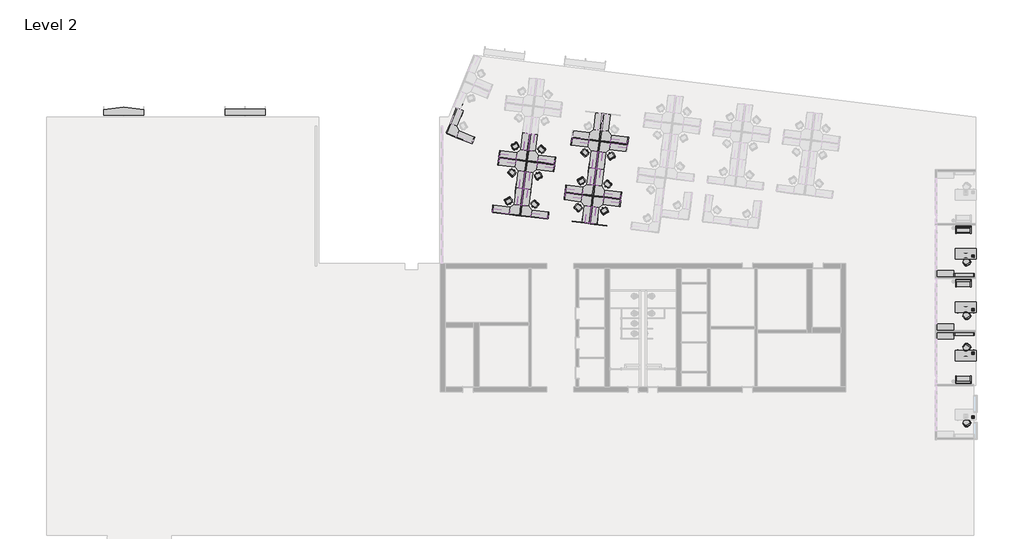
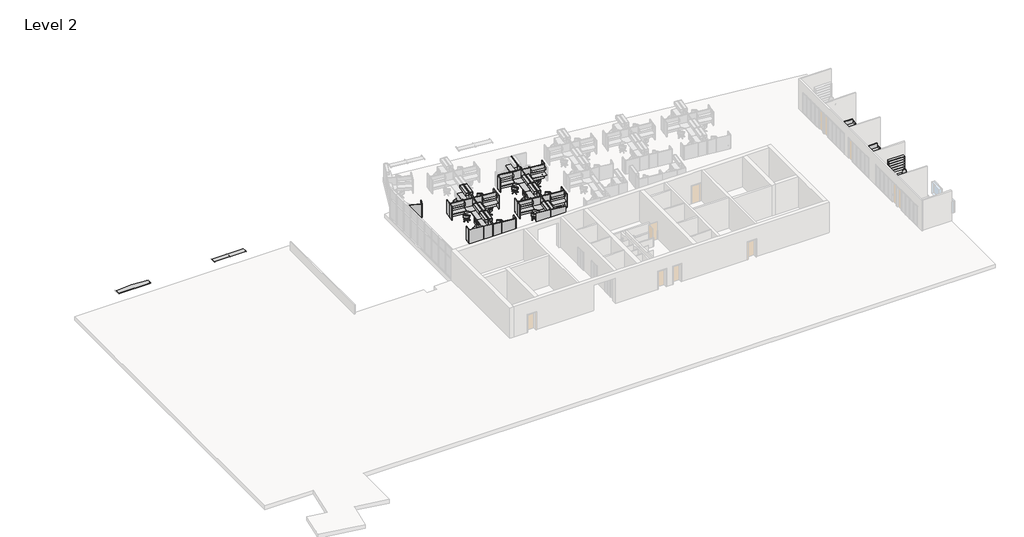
# One storey, part 5 of 7: 94 furniture elements, 6 proxies.
"""IFC4 building model written with IfcOpenShell, lengths in millimetres."""

from ifc_helpers import new_model, si_unit, origin, place, context, project, spatial, transform, mapped, element, save
from components import phone_phone_5230e7aa, phone_phone_b8b7aebd, shading_device_shading_device_a76b5041, shading_device3_shading_device3_e523e190, chair_executive_chair_executive_8d69e98c, chair_executive_chair_executive_a5be4872, chair_task_arms_chair_task_arms_3b363349, chair_task_arms_chair_task_arms_8395c10b, furniture_894c625b, furniture_2f1724fb, furniture_665347ce, furniture_3ceed070, furniture_00cef8f1, furniture_8d825890, furniture_2fc54265, furniture_91cd4dc0, overhead_shelving_module_overhead_shelving_module_3ee17988, overhead_shelving_module_overhead_shelving_module_7dcda1b9, overhead_storage_module_overhead_storage_module_326dc690, overhead_storage_module_overhead_storage_module_bea9f75f, furniture_6f8441ab, furniture_6d145fab, furniture_22419f35, furniture_8ec9ccbf, furniture_0333d240, furniture_4718bb14, furniture_45e3acac, furniture_7b33082a

model = new_model("IFC4")

# Units and contexts
model_context = context("Model", 3, world=origin())
ifc_project = project(units=[si_unit("LENGTHUNIT", "METRE", prefix="MILLI")], contexts=[model_context])

# Site, building, storey
site = spatial("IfcSite", under=ifc_project)
building = spatial("IfcBuilding", under=site)
storey = spatial("IfcBuildingStorey", under=building, Name="Level 2", Elevation=3657.6)

# Proxies
placement = place(None, origin())
phone_phone_shape = phone_phone_5230e7aa(model_context)
element("IfcBuildingElementProxy", 1, Name="Phone : Phone", ObjectType="Phone : Phone", at=placement, inside=storey, context=model_context, shape_type="MappedRepresentation", body=[
    mapped(phone_phone_shape, transform((15049.386755, -11543.7561102, 4419.6), x_axis=(1.0, 0.0, 0.0), y_axis=(0.0, 1.0, 0.0), z_axis=(0.0, 0.0, 1.0))),
])
phone_phone_2_shape = phone_phone_b8b7aebd(model_context)
element("IfcBuildingElementProxy", 2, Name="Phone : Phone", ObjectType="Phone : Phone", at=placement, inside=storey, context=model_context, shape_type="MappedRepresentation", body=[
    mapped(phone_phone_2_shape, transform((15049.386755, -2377.1766865, 4419.6), x_axis=(1.0, 0.0, 0.0), y_axis=(0.0, 1.0, 0.0), z_axis=(0.0, 0.0, 1.0))),
])
element("IfcBuildingElementProxy", 3, Name="Phone : Phone", ObjectType="Phone : Phone", at=placement, inside=storey, context=model_context, shape_type="MappedRepresentation", body=[
    mapped(phone_phone_2_shape, transform((15049.386755, -7211.6809871, 4419.6), x_axis=(1.0, 0.0, 0.0), y_axis=(0.0, 1.0, 0.0), z_axis=(0.0, 0.0, 1.0))),
])
element("IfcBuildingElementProxy", 4, Name="Phone : Phone", ObjectType="Phone : Phone", at=placement, inside=storey, context=model_context, shape_type="MappedRepresentation", body=[
    mapped(phone_phone_2_shape, transform((15049.386755, -16880.6895882, 4419.6), x_axis=(1.0, 0.0, 0.0), y_axis=(0.0, 1.0, 0.0), z_axis=(0.0, 0.0, 1.0))),
])
shading_device_shading_device_shape = shading_device_shading_device_a76b5041(model_context)
element("IfcBuildingElementProxy", 5, Name="Shading Device : Shading Device", ObjectType="Shading Device : Shading Device", at=placement, inside=storey, context=model_context, shape_type="MappedRepresentation", body=[
    mapped(shading_device_shading_device_shape, transform((-48967.6441819, 10081.2896508, 4572.0), x_axis=(-1.0, 0.0, 0.0), y_axis=(0.0, -1.0, 0.0), z_axis=(0.0, 0.0, 1.0))),
])
shading_device3_shading_device3_shape = shading_device3_shading_device3_e523e190(model_context)
element("IfcBuildingElementProxy", 6, Name="Shading Device3 : Shading Device3", ObjectType="Shading Device3 : Shading Device3", at=placement, inside=storey, context=model_context, shape_type="MappedRepresentation", body=[
    mapped(shading_device3_shading_device3_shape, transform((-59892.8191819, 10081.2896508, 4572.0), x_axis=(-1.0, 0.0, 0.0), y_axis=(0.0, -1.0, 0.0), z_axis=(0.0, 0.0, 1.0))),
])

# Furniture
chair_executive_chair_executive_shape = chair_executive_chair_executive_8d69e98c(model_context)
element("IfcFurniture", 7, ObjectType="Chair-Executive : Chair-Executive", at=placement, inside=storey, context=model_context, shape_type="MappedRepresentation", body=[
    mapped(chair_executive_chair_executive_shape, transform((14331.1988374, -10895.4183478, 3657.6), x_axis=(-0.8386705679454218, 0.5446390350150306, 0.0), y_axis=(-0.5446390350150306, -0.8386705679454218, 0.0), z_axis=(0.0, 0.0, 1.0))),
])
chair_executive_chair_executive_2_shape = chair_executive_chair_executive_a5be4872(model_context)
element("IfcFurniture", 8, ObjectType="Chair-Executive : Chair-Executive", at=placement, inside=storey, context=model_context, shape_type="MappedRepresentation", body=[
    mapped(chair_executive_chair_executive_2_shape, transform((14331.1988374, -3025.5144489, 3657.6), x_axis=(-0.8386705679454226, -0.5446390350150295, 0.0), y_axis=(0.5446390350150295, -0.8386705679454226, 0.0), z_axis=(0.0, 0.0, 1.0))),
])
element("IfcFurniture", 9, ObjectType="Chair-Executive : Chair-Executive", at=placement, inside=storey, context=model_context, shape_type="MappedRepresentation", body=[
    mapped(chair_executive_chair_executive_2_shape, transform((14331.1988374, -7860.0187495, 3657.6), x_axis=(-0.8386705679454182, -0.5446390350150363, 0.0), y_axis=(0.5446390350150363, -0.8386705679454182, 0.0), z_axis=(0.0, 0.0, 1.0))),
])
element("IfcFurniture", 10, ObjectType="Chair-Executive : Chair-Executive", at=placement, inside=storey, context=model_context, shape_type="MappedRepresentation", body=[
    mapped(chair_executive_chair_executive_2_shape, transform((14331.1988374, -17529.0273506, 3657.6), x_axis=(-0.8386705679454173, -0.5446390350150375, 0.0), y_axis=(0.5446390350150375, -0.8386705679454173, 0.0), z_axis=(0.0, 0.0, 1.0))),
])
chair_task_arms_chair_task_arms_shape = chair_task_arms_chair_task_arms_3b363349(model_context)
element("IfcFurniture", 11, ObjectType="Chair-Task Arms : Chair-Task Arms", at=placement, inside=storey, context=model_context, shape_type="MappedRepresentation", body=[
    mapped(chair_task_arms_chair_task_arms_shape, transform((-20294.5435692, 6809.0079878, 3657.6), x_axis=(0.719339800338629, -0.6946583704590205, 0.0), y_axis=(0.6946583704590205, 0.719339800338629, 0.0), z_axis=(0.0, 0.0, 1.0))),
])
element("IfcFurniture", 12, ObjectType="Chair-Task Arms : Chair-Task Arms", at=placement, inside=storey, context=model_context, shape_type="MappedRepresentation", body=[
    mapped(chair_task_arms_chair_task_arms_shape, transform((-23959.1336884, 6961.7514569, 3657.6), x_axis=(-0.7193398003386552, 0.6946583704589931, 0.0), y_axis=(-0.6946583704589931, -0.7193398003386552, 0.0), z_axis=(0.0, 0.0, 1.0))),
])
element("IfcFurniture", 13, ObjectType="Chair-Task Arms : Chair-Task Arms", at=placement, inside=storey, context=model_context, shape_type="MappedRepresentation", body=[
    mapped(chair_task_arms_chair_task_arms_shape, transform((-17997.8622143, 3824.2688972, 3657.6), x_axis=(-0.7193398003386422, 0.6946583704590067, 0.0), y_axis=(-0.6946583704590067, -0.7193398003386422, 0.0), z_axis=(0.0, 0.0, 1.0))),
])
element("IfcFurniture", 14, ObjectType="Chair-Task Arms : Chair-Task Arms", at=placement, inside=storey, context=model_context, shape_type="MappedRepresentation", body=[
    mapped(chair_task_arms_chair_task_arms_shape, transform((-24565.8480276, 2020.4596955, 3657.6), x_axis=(-0.7193398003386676, 0.6946583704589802, 0.0), y_axis=(-0.6946583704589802, -0.7193398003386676, 0.0), z_axis=(0.0, 0.0, 1.0))),
])
element("IfcFurniture", 15, ObjectType="Chair-Task Arms : Chair-Task Arms", at=placement, inside=storey, context=model_context, shape_type="MappedRepresentation", body=[
    mapped(chair_task_arms_chair_task_arms_shape, transform((-20901.2579084, 1867.7162265, 3657.6), x_axis=(0.7193398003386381, -0.694658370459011, 0.0), y_axis=(0.694658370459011, 0.7193398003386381, 0.0), z_axis=(0.0, 0.0, 1.0))),
])
element("IfcFurniture", 16, ObjectType="Chair-Task Arms : Chair-Task Arms", at=placement, inside=storey, context=model_context, shape_type="MappedRepresentation", body=[
    mapped(chair_task_arms_chair_task_arms_shape, transform((-26862.5293825, 5005.1987861, 3657.6), x_axis=(0.7193398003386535, -0.6946583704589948, 0.0), y_axis=(0.6946583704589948, 0.7193398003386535, 0.0), z_axis=(0.0, 0.0, 1.0))),
])
chair_task_arms_chair_task_arms_2_shape = chair_task_arms_chair_task_arms_8395c10b(model_context)
element("IfcFurniture", 17, ObjectType="Chair-Task Arms : Chair-Task Arms", at=placement, inside=storey, context=model_context, shape_type="MappedRepresentation", body=[
    mapped(chair_task_arms_chair_task_arms_2_shape, transform((-17670.9359707, 6486.8694808, 3657.6), x_axis=(-0.866025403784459, -0.49999999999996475, 0.0), y_axis=(0.49999999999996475, -0.866025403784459, 0.0), z_axis=(0.0, 0.0, 1.0))),
])
element("IfcFurniture", 18, ObjectType="Chair-Task Arms : Chair-Task Arms", at=placement, inside=storey, context=model_context, shape_type="MappedRepresentation", body=[
    mapped(chair_task_arms_chair_task_arms_2_shape, transform((-20621.4698127, 4146.4074042, 3657.6), x_axis=(0.8660254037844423, 0.4999999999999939, 0.0), y_axis=(-0.4999999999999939, 0.8660254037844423, 0.0), z_axis=(0.0, 0.0, 1.0))),
])
element("IfcFurniture", 19, ObjectType="Chair-Task Arms : Chair-Task Arms", at=placement, inside=storey, context=model_context, shape_type="MappedRepresentation", body=[
    mapped(chair_task_arms_chair_task_arms_2_shape, transform((-24238.921784, 4683.0602792, 3657.6), x_axis=(-0.8660254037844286, -0.5000000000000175, 0.0), y_axis=(0.5000000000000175, -0.8660254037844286, 0.0), z_axis=(0.0, 0.0, 1.0))),
])
element("IfcFurniture", 20, ObjectType="Chair-Task Arms : Chair-Task Arms", at=placement, inside=storey, context=model_context, shape_type="MappedRepresentation", body=[
    mapped(chair_task_arms_chair_task_arms_2_shape, transform((-18277.6503099, 1545.5777195, 3657.6), x_axis=(-0.8660254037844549, -0.4999999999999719, 0.0), y_axis=(0.4999999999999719, -0.8660254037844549, 0.0), z_axis=(0.0, 0.0, 1.0))),
])
element("IfcFurniture", 21, ObjectType="Chair-Task Arms : Chair-Task Arms", at=placement, inside=storey, context=model_context, shape_type="MappedRepresentation", body=[
    mapped(chair_task_arms_chair_task_arms_2_shape, transform((-26582.7412868, 7283.8899638, 3657.6), x_axis=(0.8660254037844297, 0.5000000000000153, 0.0), y_axis=(-0.5000000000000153, 0.8660254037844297, 0.0), z_axis=(0.0, 0.0, 1.0))),
])
element("IfcFurniture", 22, ObjectType="Chair-Task Arms : Chair-Task Arms", at=placement, inside=storey, context=model_context, shape_type="MappedRepresentation", body=[
    mapped(chair_task_arms_chair_task_arms_2_shape, transform((-27189.455626, 2342.5982025, 3657.6), x_axis=(0.8660254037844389, 0.49999999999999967, 0.0), y_axis=(-0.49999999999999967, 0.8660254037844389, 0.0), z_axis=(0.0, 0.0, 1.0))),
])
furniture_shape = furniture_894c625b(model_context)
element("IfcFurniture", 23, ObjectType="Credenza : 60\" x 24\"", at=placement, inside=storey, context=model_context, shape_type="MappedRepresentation", body=[
    mapped(furniture_shape, transform((12221.5111465, -4173.1445759, 3657.6), x_axis=(1.0, 0.0, 0.0), y_axis=(0.0, 1.0, 0.0), z_axis=(0.0, 0.0, 1.0))),
])
element("IfcFurniture", 24, ObjectType="Credenza : 60\" x 24\"", at=placement, inside=storey, context=model_context, shape_type="MappedRepresentation", body=[
    mapped(furniture_shape, transform((12221.5111465, -9007.6488765, 3657.6), x_axis=(1.0, 0.0, 0.0), y_axis=(0.0, 1.0, 0.0), z_axis=(0.0, 0.0, 1.0))),
])
furniture_2_shape = furniture_2f1724fb(model_context)
element("IfcFurniture", 25, ObjectType="Credenza : 60\" x 24\"", at=placement, inside=storey, context=model_context, shape_type="MappedRepresentation", body=[
    mapped(furniture_2_shape, transform((12221.5111465, -9747.7882208, 3657.6), x_axis=(1.0, 0.0, 0.0), y_axis=(0.0, 1.0, 0.0), z_axis=(0.0, 0.0, 1.0))),
])
furniture_3_shape = furniture_665347ce(model_context)
element("IfcFurniture", 26, ObjectType="Cube Panel : 24\" x 66\"", at=placement, inside=storey, context=model_context, shape_type="MappedRepresentation", body=[
    mapped(furniture_3_shape, transform((-21382.0390135, 7740.7875626, 3657.6), x_axis=(-0.12186934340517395, -0.9925461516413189, 0.0), y_axis=(0.9925461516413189, -0.12186934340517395, 0.0), z_axis=(0.0, 0.0, 1.0))),
])
element("IfcFurniture", 27, ObjectType="Cube Panel : 24\" x 66\"", at=placement, inside=storey, context=model_context, shape_type="MappedRepresentation", body=[
    mapped(furniture_3_shape, transform((-16303.6524307, 7833.7810838, 3657.6), x_axis=(0.12186934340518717, 0.9925461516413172, 0.0), y_axis=(-0.9925461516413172, 0.12186934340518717, 0.0), z_axis=(0.0, 0.0, 1.0))),
])
element("IfcFurniture", 28, ObjectType="Cube Panel : 24\" x 66\"", at=placement, inside=storey, context=model_context, shape_type="MappedRepresentation", body=[
    mapped(furniture_3_shape, transform((-22871.638244, 6029.9718821, 3657.6), x_axis=(0.12186934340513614, 0.9925461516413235, 0.0), y_axis=(-0.9925461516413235, 0.12186934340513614, 0.0), z_axis=(0.0, 0.0, 1.0))),
])
element("IfcFurniture", 29, ObjectType="Cube Panel : 24\" x 66\"", at=placement, inside=storey, context=model_context, shape_type="MappedRepresentation", body=[
    mapped(furniture_3_shape, transform((-16910.3667699, 2892.4893225, 3657.6), x_axis=(0.12186934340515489, 0.9925461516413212, 0.0), y_axis=(-0.9925461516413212, 0.12186934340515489, 0.0), z_axis=(0.0, 0.0, 1.0))),
])
element("IfcFurniture", 30, ObjectType="Cube Panel : 24\" x 66\"", at=placement, inside=storey, context=model_context, shape_type="MappedRepresentation", body=[
    mapped(furniture_3_shape, transform((-23478.3525832, 1088.6801208, 3657.6), x_axis=(0.12186934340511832, 0.9925461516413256, 0.0), y_axis=(-0.9925461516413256, 0.12186934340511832, 0.0), z_axis=(0.0, 0.0, 1.0))),
])
element("IfcFurniture", 31, ObjectType="Cube Panel : 24\" x 66\"", at=placement, inside=storey, context=model_context, shape_type="MappedRepresentation", body=[
    mapped(furniture_3_shape, transform((-21988.7533528, 2799.4958013, 3657.6), x_axis=(-0.12186934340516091, -0.9925461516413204, 0.0), y_axis=(0.9925461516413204, -0.12186934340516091, 0.0), z_axis=(0.0, 0.0, 1.0))),
])
element("IfcFurniture", 32, ObjectType="Cube Panel : 24\" x 66\"", at=placement, inside=storey, context=model_context, shape_type="MappedRepresentation", body=[
    mapped(furniture_3_shape, transform((-27950.0248269, 5936.9783609, 3657.6), x_axis=(-0.12186934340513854, -0.9925461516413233, 0.0), y_axis=(0.9925461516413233, -0.12186934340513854, 0.0), z_axis=(0.0, 0.0, 1.0))),
])
element("IfcFurniture", 33, ObjectType="Cube Panel : 24\" x 66\"", at=placement, inside=storey, context=model_context, shape_type="MappedRepresentation", body=[
    mapped(furniture_3_shape, transform((-30219.5912683, 7857.7185256, 3657.6), x_axis=(0.3785502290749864, 0.9255807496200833, 0.0), y_axis=(-0.9255807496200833, 0.3785502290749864, 0.0), z_axis=(0.0, 0.0, 1.0))),
])
furniture_4_shape = furniture_3ceed070(model_context)
element("IfcFurniture", 34, ObjectType="Cube Panel : 24\" x 66\"", at=placement, inside=storey, context=model_context, shape_type="MappedRepresentation", body=[
    mapped(furniture_4_shape, transform((-21902.0798757, 3505.3946243, 3657.6), x_axis=(0.12186934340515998, 0.9925461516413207, 0.0), y_axis=(-0.9925461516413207, 0.12186934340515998, 0.0), z_axis=(0.0, 0.0, 1.0))),
])
element("IfcFurniture", 35, ObjectType="Cube Panel : 24\" x 66\"", at=placement, inside=storey, context=model_context, shape_type="MappedRepresentation", body=[
    mapped(furniture_4_shape, transform((-22958.311721, 5324.073059, 3657.6), x_axis=(-0.12186934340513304, -0.992546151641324, 0.0), y_axis=(0.992546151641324, -0.12186934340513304, 0.0), z_axis=(0.0, 0.0, 1.0))),
])
element("IfcFurniture", 36, ObjectType="Cube Panel : 24\" x 66\"", at=placement, inside=storey, context=model_context, shape_type="MappedRepresentation", body=[
    mapped(furniture_4_shape, transform((-16997.0402469, 2186.5904994, 3657.6), x_axis=(-0.12186934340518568, -0.9925461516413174, 0.0), y_axis=(0.9925461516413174, -0.12186934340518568, 0.0), z_axis=(0.0, 0.0, 1.0))),
])
element("IfcFurniture", 37, ObjectType="Cube Panel : 24\" x 66\"", at=placement, inside=storey, context=model_context, shape_type="MappedRepresentation", body=[
    mapped(furniture_4_shape, transform((-27863.3513498, 6642.8771839, 3657.6), x_axis=(0.12186934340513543, 0.9925461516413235, 0.0), y_axis=(-0.9925461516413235, 0.12186934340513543, 0.0), z_axis=(0.0, 0.0, 1.0))),
])
element("IfcFurniture", 38, ObjectType="Cube Panel : 24\" x 66\"", at=placement, inside=storey, context=model_context, shape_type="MappedRepresentation", body=[
    mapped(furniture_4_shape, transform((-28470.065689, 1701.5854226, 3657.6), x_axis=(0.12186934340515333, 0.9925461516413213, 0.0), y_axis=(-0.9925461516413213, 0.12186934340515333, 0.0), z_axis=(0.0, 0.0, 1.0))),
])
furniture_5_shape = furniture_00cef8f1(model_context)
element("IfcFurniture", 39, ObjectType="Cube Panel : 60\" x 66\"", at=placement, inside=storey, context=model_context, shape_type="MappedRepresentation", body=[
    mapped(furniture_5_shape, transform((-20562.7542243, 449.1914113, 3657.6), x_axis=(-0.9925461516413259, 0.12186934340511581, 0.0), y_axis=(-0.12186934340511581, -0.9925461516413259, 0.0), z_axis=(0.0, 0.0, 1.0))),
])
furniture_6_shape = furniture_8d825890(model_context)
element("IfcFurniture", 40, ObjectType="Cube Panel : 60\" x 66\"", at=placement, inside=storey, context=model_context, shape_type="MappedRepresentation", body=[
    mapped(furniture_6_shape, transform((-18949.2712002, 251.0806066, 3657.6), x_axis=(0.9925461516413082, -0.12186934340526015, 0.0), y_axis=(0.12186934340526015, 0.9925461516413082, 0.0), z_axis=(0.0, 0.0, 1.0))),
])
furniture_7_shape = furniture_2fc54265(model_context)
element("IfcFurniture", 41, ObjectType="Desk : 72\" x 36\"", at=placement, inside=storey, context=model_context, shape_type="MappedRepresentation", body=[
    mapped(furniture_7_shape, transform((13214.5054088, -12007.5598812, 3657.6), x_axis=(1.0, 0.0, 0.0), y_axis=(0.0, 1.0, 0.0), z_axis=(0.0, 0.0, 1.0))),
])
furniture_8_shape = furniture_91cd4dc0(model_context)
element("IfcFurniture", 42, ObjectType="Desk : 72\" x 36\"", at=placement, inside=storey, context=model_context, shape_type="MappedRepresentation", body=[
    mapped(furniture_8_shape, transform((13214.5054088, -1913.3729155, 3657.6), x_axis=(1.0, 0.0, 0.0), y_axis=(0.0, 1.0, 0.0), z_axis=(0.0, 0.0, 1.0))),
])
element("IfcFurniture", 43, ObjectType="Desk : 72\" x 36\"", at=placement, inside=storey, context=model_context, shape_type="MappedRepresentation", body=[
    mapped(furniture_8_shape, transform((13214.5054088, -6747.877216, 3657.6), x_axis=(1.0, 0.0, 0.0), y_axis=(0.0, 1.0, 0.0), z_axis=(0.0, 0.0, 1.0))),
])
overhead_shelving_module_overhead_shelving_module_shape = overhead_shelving_module_overhead_shelving_module_3ee17988(model_context)
element("IfcFurniture", 44, ObjectType="Overhead Shelving Module : Overhead Shelving Module", at=placement, inside=storey, context=model_context, shape_type="MappedRepresentation", body=[
    mapped(overhead_shelving_module_overhead_shelving_module_shape, transform((-20435.5371217, 7693.7235514, 3505.2), x_axis=(0.9925461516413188, -0.12186934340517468, 0.0), y_axis=(0.12186934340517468, 0.9925461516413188, 0.0), z_axis=(0.0, 0.0, 1.0))),
])
element("IfcFurniture", 45, ObjectType="Overhead Shelving Module : Overhead Shelving Module", at=placement, inside=storey, context=model_context, shape_type="MappedRepresentation", body=[
    mapped(overhead_shelving_module_overhead_shelving_module_shape, transform((-17250.1543225, 7880.8450949, 3505.2), x_axis=(-0.9925461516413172, 0.12186934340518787, 0.0), y_axis=(-0.12186934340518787, -0.9925461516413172, 0.0), z_axis=(0.0, 0.0, 1.0))),
])
element("IfcFurniture", 46, ObjectType="Overhead Shelving Module : Overhead Shelving Module", at=placement, inside=storey, context=model_context, shape_type="MappedRepresentation", body=[
    mapped(overhead_shelving_module_overhead_shelving_module_shape, transform((-23818.1401358, 6077.0358932, 3505.2), x_axis=(-0.9925461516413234, 0.12186934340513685, 0.0), y_axis=(-0.12186934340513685, -0.9925461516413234, 0.0), z_axis=(0.0, 0.0, 1.0))),
])
element("IfcFurniture", 47, ObjectType="Overhead Shelving Module : Overhead Shelving Module", at=placement, inside=storey, context=model_context, shape_type="MappedRepresentation", body=[
    mapped(overhead_shelving_module_overhead_shelving_module_shape, transform((-17856.8686617, 2939.5533336, 3505.2), x_axis=(-0.9925461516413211, 0.12186934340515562, 0.0), y_axis=(-0.12186934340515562, -0.9925461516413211, 0.0), z_axis=(0.0, 0.0, 1.0))),
])
element("IfcFurniture", 48, ObjectType="Overhead Shelving Module : Overhead Shelving Module", at=placement, inside=storey, context=model_context, shape_type="MappedRepresentation", body=[
    mapped(overhead_shelving_module_overhead_shelving_module_shape, transform((-24424.8544751, 1135.7441319, 3505.2), x_axis=(-0.9925461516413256, 0.12186934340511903, 0.0), y_axis=(-0.12186934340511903, -0.9925461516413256, 0.0), z_axis=(0.0, 0.0, 1.0))),
])
element("IfcFurniture", 49, ObjectType="Overhead Shelving Module : Overhead Shelving Module", at=placement, inside=storey, context=model_context, shape_type="MappedRepresentation", body=[
    mapped(overhead_shelving_module_overhead_shelving_module_shape, transform((-21042.2514609, 2752.4317901, 3505.2), x_axis=(0.9925461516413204, -0.12186934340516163, 0.0), y_axis=(0.12186934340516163, 0.9925461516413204, 0.0), z_axis=(0.0, 0.0, 1.0))),
])
element("IfcFurniture", 50, ObjectType="Overhead Shelving Module : Overhead Shelving Module", at=placement, inside=storey, context=model_context, shape_type="MappedRepresentation", body=[
    mapped(overhead_shelving_module_overhead_shelving_module_shape, transform((-27003.522935, 5889.9143497, 3505.2), x_axis=(0.9925461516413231, -0.12186934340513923, 0.0), y_axis=(0.12186934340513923, 0.9925461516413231, 0.0), z_axis=(0.0, 0.0, 1.0))),
])
overhead_shelving_module_overhead_shelving_module_2_shape = overhead_shelving_module_overhead_shelving_module_7dcda1b9(model_context)
element("IfcFurniture", 51, ObjectType="Overhead Shelving Module : Overhead Shelving Module", at=placement, inside=storey, context=model_context, shape_type="MappedRepresentation", body=[
    mapped(overhead_shelving_module_overhead_shelving_module_2_shape, transform((-17320.0984631, 7311.1957837, 3505.2), x_axis=(-0.9925461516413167, 0.12186934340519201, 0.0), y_axis=(-0.12186934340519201, -0.9925461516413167, 0.0), z_axis=(0.0, 0.0, 1.0))),
])
element("IfcFurniture", 52, ObjectType="Overhead Shelving Module : Overhead Shelving Module", at=placement, inside=storey, context=model_context, shape_type="MappedRepresentation", body=[
    mapped(overhead_shelving_module_overhead_shelving_module_2_shape, transform((-20972.3073204, 3322.0811013, 3505.2), x_axis=(0.9925461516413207, -0.12186934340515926, 0.0), y_axis=(0.12186934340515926, 0.9925461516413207, 0.0), z_axis=(0.0, 0.0, 1.0))),
])
element("IfcFurniture", 53, ObjectType="Overhead Shelving Module : Overhead Shelving Module", at=placement, inside=storey, context=model_context, shape_type="MappedRepresentation", body=[
    mapped(overhead_shelving_module_overhead_shelving_module_2_shape, transform((-23888.0842764, 5507.386582, 3505.2), x_axis=(-0.992546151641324, 0.12186934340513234, 0.0), y_axis=(-0.12186934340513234, -0.992546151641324, 0.0), z_axis=(0.0, 0.0, 1.0))),
])
element("IfcFurniture", 54, ObjectType="Overhead Shelving Module : Overhead Shelving Module", at=placement, inside=storey, context=model_context, shape_type="MappedRepresentation", body=[
    mapped(overhead_shelving_module_overhead_shelving_module_2_shape, transform((-17926.8128023, 2369.9040224, 3505.2), x_axis=(-0.9925461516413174, 0.12186934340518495, 0.0), y_axis=(-0.12186934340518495, -0.9925461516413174, 0.0), z_axis=(0.0, 0.0, 1.0))),
])
element("IfcFurniture", 55, ObjectType="Overhead Shelving Module : Overhead Shelving Module", at=placement, inside=storey, context=model_context, shape_type="MappedRepresentation", body=[
    mapped(overhead_shelving_module_overhead_shelving_module_2_shape, transform((-26933.5787945, 6459.563661, 3505.2), x_axis=(0.9925461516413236, -0.12186934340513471, 0.0), y_axis=(0.12186934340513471, 0.9925461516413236, 0.0), z_axis=(0.0, 0.0, 1.0))),
])
element("IfcFurniture", 56, ObjectType="Overhead Shelving Module : Overhead Shelving Module", at=placement, inside=storey, context=model_context, shape_type="MappedRepresentation", body=[
    mapped(overhead_shelving_module_overhead_shelving_module_2_shape, transform((-27540.2931337, 1518.2718996, 3505.2), x_axis=(0.9925461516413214, -0.12186934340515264, 0.0), y_axis=(0.12186934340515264, 0.9925461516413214, 0.0), z_axis=(0.0, 0.0, 1.0))),
])
overhead_storage_module_overhead_storage_module_shape = overhead_storage_module_overhead_storage_module_326dc690(model_context)
element("IfcFurniture", 57, ObjectType="Overhead Storage Module : Overhead Storage Module", at=placement, inside=storey, context=model_context, shape_type="MappedRepresentation", body=[
    mapped(overhead_storage_module_overhead_storage_module_shape, transform((-19357.3919537, 5951.3242965, 3657.6), x_axis=(-0.12186934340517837, -0.9925461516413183, 0.0), y_axis=(0.9925461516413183, -0.12186934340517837, 0.0), z_axis=(0.0, 0.0, 1.0))),
])
element("IfcFurniture", 58, ObjectType="Overhead Storage Module : Overhead Storage Module", at=placement, inside=storey, context=model_context, shape_type="MappedRepresentation", body=[
    mapped(overhead_storage_module_overhead_storage_module_shape, transform((-24896.2853038, 7819.4351481, 3657.6), x_axis=(0.12186934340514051, 0.992546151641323, 0.0), y_axis=(-0.992546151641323, 0.12186934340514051, 0.0), z_axis=(0.0, 0.0, 1.0))),
])
element("IfcFurniture", 59, ObjectType="Overhead Storage Module : Overhead Storage Module", at=placement, inside=storey, context=model_context, shape_type="MappedRepresentation", body=[
    mapped(overhead_storage_module_overhead_storage_module_shape, transform((-18935.0138297, 4681.9525885, 3657.6), x_axis=(0.12186934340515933, 0.9925461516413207, 0.0), y_axis=(-0.9925461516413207, 0.12186934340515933, 0.0), z_axis=(0.0, 0.0, 1.0))),
])
element("IfcFurniture", 60, ObjectType="Overhead Storage Module : Overhead Storage Module", at=placement, inside=storey, context=model_context, shape_type="MappedRepresentation", body=[
    mapped(overhead_storage_module_overhead_storage_module_shape, transform((-25502.999643, 2878.1433868, 3657.6), x_axis=(0.12186934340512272, 0.9925461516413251, 0.0), y_axis=(-0.9925461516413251, 0.12186934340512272, 0.0), z_axis=(0.0, 0.0, 1.0))),
])
element("IfcFurniture", 61, ObjectType="Overhead Storage Module : Overhead Storage Module", at=placement, inside=storey, context=model_context, shape_type="MappedRepresentation", body=[
    mapped(overhead_storage_module_overhead_storage_module_shape, transform((-19964.1062929, 1010.0325352, 3657.6), x_axis=(-0.12186934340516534, -0.99254615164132, 0.0), y_axis=(0.99254615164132, -0.12186934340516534, 0.0), z_axis=(0.0, 0.0, 1.0))),
])
element("IfcFurniture", 62, ObjectType="Overhead Storage Module : Overhead Storage Module", at=placement, inside=storey, context=model_context, shape_type="MappedRepresentation", body=[
    mapped(overhead_storage_module_overhead_storage_module_shape, transform((-25925.377767, 4147.5150948, 3657.6), x_axis=(-0.12186934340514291, -0.9925461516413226, 0.0), y_axis=(0.9925461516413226, -0.12186934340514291, 0.0), z_axis=(0.0, 0.0, 1.0))),
])
overhead_storage_module_overhead_storage_module_2_shape = overhead_storage_module_overhead_storage_module_bea9f75f(model_context)
element("IfcFurniture", 63, ObjectType="Overhead Storage Module : Overhead Storage Module", at=placement, inside=storey, context=model_context, shape_type="MappedRepresentation", body=[
    mapped(overhead_storage_module_overhead_storage_module_2_shape, transform((-18787.7426425, 5881.380156, 3657.6), x_axis=(-0.1218693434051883, -0.9925461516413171, 0.0), y_axis=(0.9925461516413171, -0.1218693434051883, 0.0), z_axis=(0.0, 0.0, 1.0))),
])
element("IfcFurniture", 64, ObjectType="Overhead Storage Module : Overhead Storage Module", at=placement, inside=storey, context=model_context, shape_type="MappedRepresentation", body=[
    mapped(overhead_storage_module_overhead_storage_module_2_shape, transform((-19504.6631409, 4751.896729, 3657.6), x_axis=(0.12186934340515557, 0.9925461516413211, 0.0), y_axis=(-0.9925461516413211, 0.12186934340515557, 0.0), z_axis=(0.0, 0.0, 1.0))),
])
element("IfcFurniture", 65, ObjectType="Overhead Storage Module : Overhead Storage Module", at=placement, inside=storey, context=model_context, shape_type="MappedRepresentation", body=[
    mapped(overhead_storage_module_overhead_storage_module_2_shape, transform((-25355.7284558, 4077.5709543, 3657.6), x_axis=(-0.12186934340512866, -0.9925461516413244, 0.0), y_axis=(0.9925461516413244, -0.12186934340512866, 0.0), z_axis=(0.0, 0.0, 1.0))),
])
element("IfcFurniture", 66, ObjectType="Overhead Storage Module : Overhead Storage Module", at=placement, inside=storey, context=model_context, shape_type="MappedRepresentation", body=[
    mapped(overhead_storage_module_overhead_storage_module_2_shape, transform((-19394.4569817, 940.0883947, 3657.6), x_axis=(-0.12186934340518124, -0.992546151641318, 0.0), y_axis=(0.992546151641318, -0.12186934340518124, 0.0), z_axis=(0.0, 0.0, 1.0))),
])
element("IfcFurniture", 67, ObjectType="Overhead Storage Module : Overhead Storage Module", at=placement, inside=storey, context=model_context, shape_type="MappedRepresentation", body=[
    mapped(overhead_storage_module_overhead_storage_module_2_shape, transform((-25465.934615, 7889.3792887, 3657.6), x_axis=(0.12186934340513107, 0.9925461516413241, 0.0), y_axis=(-0.9925461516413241, 0.12186934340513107, 0.0), z_axis=(0.0, 0.0, 1.0))),
])
element("IfcFurniture", 68, ObjectType="Overhead Storage Module : Overhead Storage Module", at=placement, inside=storey, context=model_context, shape_type="MappedRepresentation", body=[
    mapped(overhead_storage_module_overhead_storage_module_2_shape, transform((-26072.6489542, 2948.0875274, 3657.6), x_axis=(0.12186934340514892, 0.9925461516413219, 0.0), y_axis=(-0.9925461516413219, 0.12186934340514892, 0.0), z_axis=(0.0, 0.0, 1.0))),
])
furniture_9_shape = furniture_6f8441ab(model_context)
element("IfcFurniture", 69, ObjectType="Shelving : 96\" x 12\" x 84\"", at=placement, inside=storey, context=model_context, shape_type="MappedRepresentation", body=[
    mapped(furniture_9_shape, transform((13982.8554088, -9295.1685486, 3657.6), x_axis=(1.0, 0.0, 0.0), y_axis=(0.0, 1.0, 0.0), z_axis=(0.0, 0.0, 1.0))),
])
furniture_10_shape = furniture_6d145fab(model_context)
element("IfcFurniture", 70, ObjectType="Shelving : 96\" x 12\" x 84\"", at=placement, inside=storey, context=model_context, shape_type="MappedRepresentation", body=[
    mapped(furniture_10_shape, transform((13982.8554088, -4625.7642481, 3657.6), x_axis=(1.0, 0.0, 0.0), y_axis=(0.0, 1.0, 0.0), z_axis=(0.0, 0.0, 1.0))),
])
furniture_11_shape = furniture_22419f35(model_context)
element("IfcFurniture", 71, ObjectType="Sofa : 54\"", at=placement, inside=storey, context=model_context, shape_type="MappedRepresentation", body=[
    mapped(furniture_11_shape, transform((13848.0435844, -350.5126789, 3657.6), x_axis=(1.0, 0.0, 0.0), y_axis=(0.0, 1.0, 0.0), z_axis=(0.0, 0.0, 1.0))),
])
element("IfcFurniture", 72, ObjectType="Sofa : 54\"", at=placement, inside=storey, context=model_context, shape_type="MappedRepresentation", body=[
    mapped(furniture_11_shape, transform((13848.0435844, -5185.0169794, 3657.6), x_axis=(1.0, 0.0, 0.0), y_axis=(0.0, 1.0, 0.0), z_axis=(0.0, 0.0, 1.0))),
])
furniture_12_shape = furniture_8ec9ccbf(model_context)
element("IfcFurniture", 73, ObjectType="Sofa : 54\"", at=placement, inside=storey, context=model_context, shape_type="MappedRepresentation", body=[
    mapped(furniture_12_shape, transform((13848.0435844, -13570.4201178, 3657.6), x_axis=(1.0, 0.0, 0.0), y_axis=(0.0, 1.0, 0.0), z_axis=(0.0, 0.0, 1.0))),
])
furniture_13_shape = furniture_0333d240(model_context)
element("IfcFurniture", 74, ObjectType="Storage Pedestal : 20\" x 30\" x 36\"", at=placement, inside=storey, context=model_context, shape_type="MappedRepresentation", body=[
    mapped(furniture_13_shape, transform((-18629.0164744, 5353.259729, 3657.6), x_axis=(-0.12186934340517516, -0.9925461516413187, 0.0), y_axis=(0.9925461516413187, -0.12186934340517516, 0.0), z_axis=(0.0, 0.0, 1.0))),
])
element("IfcFurniture", 75, ObjectType="Storage Pedestal : 20\" x 30\" x 36\"", at=placement, inside=storey, context=model_context, shape_type="MappedRepresentation", body=[
    mapped(furniture_13_shape, transform((-19663.3893091, 5280.017156, 3657.6), x_axis=(0.12186934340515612, 0.9925461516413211, 0.0), y_axis=(-0.9925461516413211, 0.12186934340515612, 0.0), z_axis=(0.0, 0.0, 1.0))),
])
element("IfcFurniture", 76, ObjectType="Storage Pedestal : 20\" x 30\" x 36\"", at=placement, inside=storey, context=model_context, shape_type="MappedRepresentation", body=[
    mapped(furniture_13_shape, transform((-26231.3751224, 3476.2079543, 3657.6), x_axis=(0.12186934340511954, 0.9925461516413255, 0.0), y_axis=(-0.9925461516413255, 0.12186934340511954, 0.0), z_axis=(0.0, 0.0, 1.0))),
])
element("IfcFurniture", 77, ObjectType="Storage Pedestal : 20\" x 30\" x 36\"", at=placement, inside=storey, context=model_context, shape_type="MappedRepresentation", body=[
    mapped(furniture_13_shape, transform((-19235.7308136, 411.9679677, 3657.6), x_axis=(-0.12186934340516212, -0.9925461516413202, 0.0), y_axis=(0.9925461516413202, -0.12186934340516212, 0.0), z_axis=(0.0, 0.0, 1.0))),
])
element("IfcFurniture", 78, ObjectType="Storage Pedestal : 20\" x 30\" x 36\"", at=placement, inside=storey, context=model_context, shape_type="MappedRepresentation", body=[
    mapped(furniture_13_shape, transform((-25197.0022877, 3549.4505273, 3657.6), x_axis=(-0.12186934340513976, -0.9925461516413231, 0.0), y_axis=(0.9925461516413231, -0.12186934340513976, 0.0), z_axis=(0.0, 0.0, 1.0))),
])
element("IfcFurniture", 79, ObjectType="Storage Pedestal : 20\" x 30\" x 36\"", at=placement, inside=storey, context=model_context, shape_type="MappedRepresentation", body=[
    mapped(furniture_13_shape, transform((-32247.9999957, 10885.0903713, 3657.6), x_axis=(0.37855022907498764, 0.9255807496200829, 0.0), y_axis=(-0.9255807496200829, 0.37855022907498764, 0.0), z_axis=(0.0, 0.0, 1.0))),
])
furniture_14_shape = furniture_4718bb14(model_context)
element("IfcFurniture", 80, ObjectType="Storage Pedestal : 20\" x 30\" x 36\"", at=placement, inside=storey, context=model_context, shape_type="MappedRepresentation", body=[
    mapped(furniture_14_shape, transform((-19639.1671711, 5477.2906387, 3657.6), x_axis=(-0.12186934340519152, -0.9925461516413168, 0.0), y_axis=(0.9925461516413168, -0.12186934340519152, 0.0), z_axis=(0.0, 0.0, 1.0))),
])
element("IfcFurniture", 81, ObjectType="Storage Pedestal : 20\" x 30\" x 36\"", at=placement, inside=storey, context=model_context, shape_type="MappedRepresentation", body=[
    mapped(furniture_14_shape, transform((-18653.2386123, 5155.9862463, 3657.6), x_axis=(0.12186934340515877, 0.9925461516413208, 0.0), y_axis=(-0.9925461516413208, 0.12186934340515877, 0.0), z_axis=(0.0, 0.0, 1.0))),
])
element("IfcFurniture", 82, ObjectType="Storage Pedestal : 20\" x 30\" x 36\"", at=placement, inside=storey, context=model_context, shape_type="MappedRepresentation", body=[
    mapped(furniture_14_shape, transform((-26207.1529844, 3673.481437, 3657.6), x_axis=(-0.12186934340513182, -0.9925461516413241, 0.0), y_axis=(0.9925461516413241, -0.12186934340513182, 0.0), z_axis=(0.0, 0.0, 1.0))),
])
element("IfcFurniture", 83, ObjectType="Storage Pedestal : 20\" x 30\" x 36\"", at=placement, inside=storey, context=model_context, shape_type="MappedRepresentation", body=[
    mapped(furniture_14_shape, transform((-20245.8815103, 535.9988774, 3657.6), x_axis=(-0.12186934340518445, -0.9925461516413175, 0.0), y_axis=(0.9925461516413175, -0.12186934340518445, 0.0), z_axis=(0.0, 0.0, 1.0))),
])
element("IfcFurniture", 84, ObjectType="Storage Pedestal : 20\" x 30\" x 36\"", at=placement, inside=storey, context=model_context, shape_type="MappedRepresentation", body=[
    mapped(furniture_14_shape, transform((-25221.2244257, 3352.1770446, 3657.6), x_axis=(0.12186934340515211, 0.9925461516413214, 0.0), y_axis=(-0.9925461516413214, 0.12186934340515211, 0.0), z_axis=(0.0, 0.0, 1.0))),
])
element("IfcFurniture", 85, ObjectType="Storage Pedestal : 20\" x 30\" x 36\"", at=placement, inside=storey, context=model_context, shape_type="MappedRepresentation", body=[
    mapped(furniture_14_shape, transform((-32454.8782679, 11184.4362572, 3657.6), x_axis=(-0.3785502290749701, -0.9255807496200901, 0.0), y_axis=(0.9255807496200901, -0.3785502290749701, 0.0), z_axis=(0.0, 0.0, 1.0))),
])
furniture_15_shape = furniture_45e3acac(model_context)
element("IfcFurniture", 86, ObjectType="Work Station Cubicle : 96\" x 96\"", at=placement, inside=storey, context=model_context, shape_type="MappedRepresentation", body=[
    mapped(furniture_15_shape, transform((-18367.5666031, 7596.2063506, 3657.6), x_axis=(-0.12186934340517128, -0.9925461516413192, 0.0), y_axis=(0.9925461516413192, -0.12186934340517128, 0.0), z_axis=(0.0, 0.0, 1.0))),
])
element("IfcFurniture", 87, ObjectType="Work Station Cubicle : 96\" x 96\"", at=placement, inside=storey, context=model_context, shape_type="MappedRepresentation", body=[
    mapped(furniture_15_shape, transform((-19318.1248412, 7978.3622958, 3657.6), x_axis=(0.12186934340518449, 0.9925461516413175, 0.0), y_axis=(-0.9925461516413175, 0.12186934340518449, 0.0), z_axis=(0.0, 0.0, 1.0))),
])
element("IfcFurniture", 88, ObjectType="Work Station Cubicle : 96\" x 96\"", at=placement, inside=storey, context=model_context, shape_type="MappedRepresentation", body=[
    mapped(furniture_15_shape, transform((-25886.1106545, 6174.5530941, 3657.6), x_axis=(0.12186934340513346, 0.9925461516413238, 0.0), y_axis=(-0.9925461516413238, 0.12186934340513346, 0.0), z_axis=(0.0, 0.0, 1.0))),
])
element("IfcFurniture", 89, ObjectType="Work Station Cubicle : 96\" x 96\"", at=placement, inside=storey, context=model_context, shape_type="MappedRepresentation", body=[
    mapped(furniture_15_shape, transform((-19924.8391804, 3037.0705345, 3657.6), x_axis=(0.1218693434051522, 0.9925461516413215, 0.0), y_axis=(-0.9925461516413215, 0.1218693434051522, 0.0), z_axis=(0.0, 0.0, 1.0))),
])
element("IfcFurniture", 90, ObjectType="Work Station Cubicle : 96\" x 96\"", at=placement, inside=storey, context=model_context, shape_type="MappedRepresentation", body=[
    mapped(furniture_15_shape, transform((-26492.8249937, 1233.2613328, 3657.6), x_axis=(0.12186934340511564, 0.992546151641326, 0.0), y_axis=(-0.992546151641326, 0.12186934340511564, 0.0), z_axis=(0.0, 0.0, 1.0))),
])
element("IfcFurniture", 91, ObjectType="Work Station Cubicle : 96\" x 96\"", at=placement, inside=storey, context=model_context, shape_type="MappedRepresentation", body=[
    mapped(furniture_15_shape, transform((-18974.2809423, 2654.9145892, 3657.6), x_axis=(-0.12186934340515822, -0.9925461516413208, 0.0), y_axis=(0.9925461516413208, -0.12186934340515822, 0.0), z_axis=(0.0, 0.0, 1.0))),
])
element("IfcFurniture", 92, ObjectType="Work Station Cubicle : 96\" x 96\"", at=placement, inside=storey, context=model_context, shape_type="MappedRepresentation", body=[
    mapped(furniture_15_shape, transform((-24935.5524164, 5792.3971489, 3657.6), x_axis=(-0.12186934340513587, -0.9925461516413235, 0.0), y_axis=(0.9925461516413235, -0.12186934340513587, 0.0), z_axis=(0.0, 0.0, 1.0))),
])
element("IfcFurniture", 93, ObjectType="Work Station Cubicle : 96\" x 96\"", at=placement, inside=storey, context=model_context, shape_type="MappedRepresentation", body=[
    mapped(furniture_15_shape, transform((-33089.9857643, 8789.803864, 3657.6), x_axis=(0.378550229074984, 0.9255807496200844, 0.0), y_axis=(-0.9255807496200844, 0.378550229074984, 0.0), z_axis=(0.0, 0.0, 1.0))),
])
furniture_16_shape = furniture_7b33082a(model_context)
element("IfcFurniture", 94, ObjectType="Work Station Cubicle : 96\" x 96\"", at=placement, inside=storey, context=model_context, shape_type="MappedRepresentation", body=[
    mapped(furniture_16_shape, transform((-18335.4584788, 7857.706038, 3657.6), x_axis=(0.12186934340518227, 0.9925461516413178, 0.0), y_axis=(-0.9925461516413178, 0.12186934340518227, 0.0), z_axis=(0.0, 0.0, 1.0))),
])
element("IfcFurniture", 95, ObjectType="Work Station Cubicle : 96\" x 96\"", at=placement, inside=storey, context=model_context, shape_type="MappedRepresentation", body=[
    mapped(furniture_16_shape, transform((-19350.2329655, 7716.8626084, 3657.6), x_axis=(-0.12186934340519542, -0.9925461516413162, 0.0), y_axis=(0.9925461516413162, -0.12186934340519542, 0.0), z_axis=(0.0, 0.0, 1.0))),
])
element("IfcFurniture", 96, ObjectType="Work Station Cubicle : 96\" x 96\"", at=placement, inside=storey, context=model_context, shape_type="MappedRepresentation", body=[
    mapped(furniture_16_shape, transform((-18942.172818, 2916.4142767, 3657.6), x_axis=(0.12186934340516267, 0.9925461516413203, 0.0), y_axis=(-0.9925461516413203, 0.12186934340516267, 0.0), z_axis=(0.0, 0.0, 1.0))),
])
element("IfcFurniture", 97, ObjectType="Work Station Cubicle : 96\" x 96\"", at=placement, inside=storey, context=model_context, shape_type="MappedRepresentation", body=[
    mapped(furniture_16_shape, transform((-25918.2187788, 5913.0534067, 3657.6), x_axis=(-0.1218693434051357, -0.9925461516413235, 0.0), y_axis=(0.9925461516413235, -0.1218693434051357, 0.0), z_axis=(0.0, 0.0, 1.0))),
])
element("IfcFurniture", 98, ObjectType="Work Station Cubicle : 96\" x 96\"", at=placement, inside=storey, context=model_context, shape_type="MappedRepresentation", body=[
    mapped(furniture_16_shape, transform((-19956.9473047, 2775.570847, 3657.6), x_axis=(-0.12186934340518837, -0.9925461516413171, 0.0), y_axis=(0.9925461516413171, -0.12186934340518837, 0.0), z_axis=(0.0, 0.0, 1.0))),
])
element("IfcFurniture", 99, ObjectType="Work Station Cubicle : 96\" x 96\"", at=placement, inside=storey, context=model_context, shape_type="MappedRepresentation", body=[
    mapped(furniture_16_shape, transform((-24903.4442921, 6053.8968363, 3657.6), x_axis=(0.12186934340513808, 0.9925461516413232, 0.0), y_axis=(-0.9925461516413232, 0.12186934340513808, 0.0), z_axis=(0.0, 0.0, 1.0))),
])
element("IfcFurniture", 100, ObjectType="Work Station Cubicle : 96\" x 96\"", at=placement, inside=storey, context=model_context, shape_type="MappedRepresentation", body=[
    mapped(furniture_16_shape, transform((-25510.1586313, 1112.605075, 3657.6), x_axis=(0.12186934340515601, 0.992546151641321, 0.0), y_axis=(-0.992546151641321, 0.12186934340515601, 0.0), z_axis=(0.0, 0.0, 1.0))),
])

save(model, "model.ifc")
